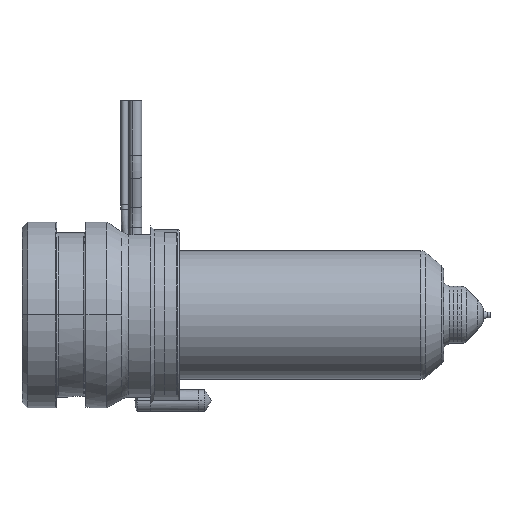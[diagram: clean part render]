
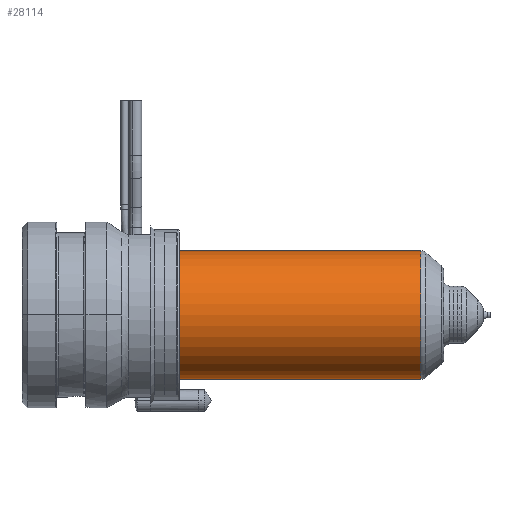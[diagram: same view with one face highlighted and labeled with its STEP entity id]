
A CAD part, left-side view. The second image highlights one B-rep face of the part: STEP entity #28114.
In plain terms, the highlighted cylindrical face has radius 9 mm (diameter 18 mm), a partial arc.
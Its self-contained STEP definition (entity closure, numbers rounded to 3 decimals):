
#27497=CARTESIAN_POINT('',(0.,-55.836,0.));
#27498=DIRECTION('',(0.,-1.,0.));
#27499=DIRECTION('',(0.,0.,1.));
#27500=AXIS2_PLACEMENT_3D('',#27497,#27498,#27499);
#27505=CARTESIAN_POINT('',(0.,-22.,0.));
#27506=DIRECTION('',(0.,-1.,0.));
#27507=DIRECTION('',(0.,0.,1.));
#27508=AXIS2_PLACEMENT_3D('',#27505,#27506,#27507);
#27513=DIRECTION('',(0.,-1.,0.));
#27514=VECTOR('',#27513,33.836);
#27515=CARTESIAN_POINT('',(0.,-22.,9.));
#27516=LINE('',#27515,#27514);
#27528=DIRECTION('',(0.,-1.,0.));
#27529=VECTOR('',#27528,33.836);
#27530=CARTESIAN_POINT('',(0.,-22.,-9.));
#27531=LINE('',#27530,#27529);
#27731=CARTESIAN_POINT('',(0.,-22.,9.));
#27732=CARTESIAN_POINT('',(0.,-55.836,9.));
#27733=VERTEX_POINT('',#27731);
#27734=VERTEX_POINT('',#27732);
#27757=CARTESIAN_POINT('',(0.,-22.,-9.));
#27758=CARTESIAN_POINT('',(0.,-55.836,-9.));
#27759=VERTEX_POINT('',#27757);
#27760=VERTEX_POINT('',#27758);
#28100=CARTESIAN_POINT('',(0.,-15.625,0.));
#28101=DIRECTION('',(0.,-1.,0.));
#28102=DIRECTION('',(0.,0.,1.));
#28103=AXIS2_PLACEMENT_3D('',#28100,#28101,#28102);
#28104=CYLINDRICAL_SURFACE('',#28103,9.);
#28106=ORIENTED_EDGE('',*,*,#28105,.T.);
#28107=ORIENTED_EDGE('',*,*,#28095,.T.);
#28109=ORIENTED_EDGE('',*,*,#28108,.F.);
#28111=ORIENTED_EDGE('',*,*,#28110,.F.);
#28112=EDGE_LOOP('',(#28106,#28107,#28109,#28111));
#28113=FACE_OUTER_BOUND('',#28112,.F.);
#28114=ADVANCED_FACE('',(#28113),#28104,.T.);
#27501=CIRCLE('',#27500,9.);
#27509=CIRCLE('',#27508,9.);
#28095=EDGE_CURVE('',#27734,#27760,#27501,.T.);
#28105=EDGE_CURVE('',#27733,#27734,#27516,.T.);
#28108=EDGE_CURVE('',#27759,#27760,#27531,.T.);
#28110=EDGE_CURVE('',#27733,#27759,#27509,.T.);
